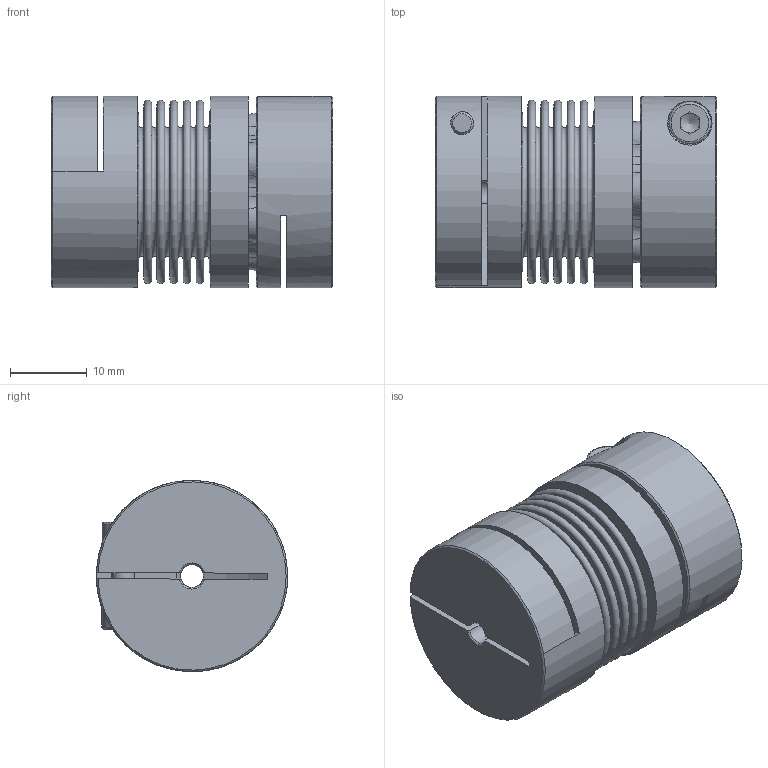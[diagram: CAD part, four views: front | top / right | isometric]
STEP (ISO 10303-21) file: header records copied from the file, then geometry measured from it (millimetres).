
FILE_DESCRIPTION( ( 'KBE1/14 - N7H8 - N14H7 - 98 Sh' ), '1' );
FILE_NAME( 'K:/Konstruktion/Fertigungszeichnungen/Metallbalgkupplung/KB2P/20/KB2P-20-37.stp', '14.12.2015', ( 'KBK-Antriebstechnik' ), ( 'KBK-Antriebstechnik' ), 'PSStep 16.0.42', 'Solid Edge St6', ' ' );
FILE_SCHEMA( ( 'AUTOMOTIVE_DESIGN { 1 0 10303 214 1 1 1 1 }' ) );
Length unit declared in the file: millimetre
Products named in the file (6): Assem1; BK20_Standard_1; KN20_Standard_5; Socket Head Cap Screw_DIN_DIN 912 M3 x 10 --- 10N_5; Stecknabe KB2P-20; Balgaufnahme KB2P-20 für Step
Assembly tree (6 placements, depth 2):
  Assem1
    BK20_Standard_1
    KN20_Standard_5
    Socket Head Cap Screw_DIN_DIN 912 M3 x 10 --- 10N_5  x2
    Stecknabe KB2P-20
    Balgaufnahme KB2P-20 für Step
Bounding box: 36.75 x 25 x 25 mm (x, y, z)
Volume: 12823.7 mm3; surface area: 14106.6 mm2
Topology: 6 solids, 6 shells, 195 faces, 452 edges, 294 vertices
Faces by surface type: plane 79, cone 60, torus 31, cylinder 25
Full cylindrical faces by diameter (mm): 2.459 x1, 3 x5, 3.2 x2, 5.5 x2, 21 x2, 21.3 x2, 25 x3
Entity records: 6479 total; most frequent: CARTESIAN_POINT 1040, DIRECTION 901, ORIENTED_EDGE 688, AXIS2_PLACEMENT_3D 394, EDGE_CURVE 344, EDGE_LOOP 266, VERTEX_POINT 265, FACE_OUTER_BOUND 217
